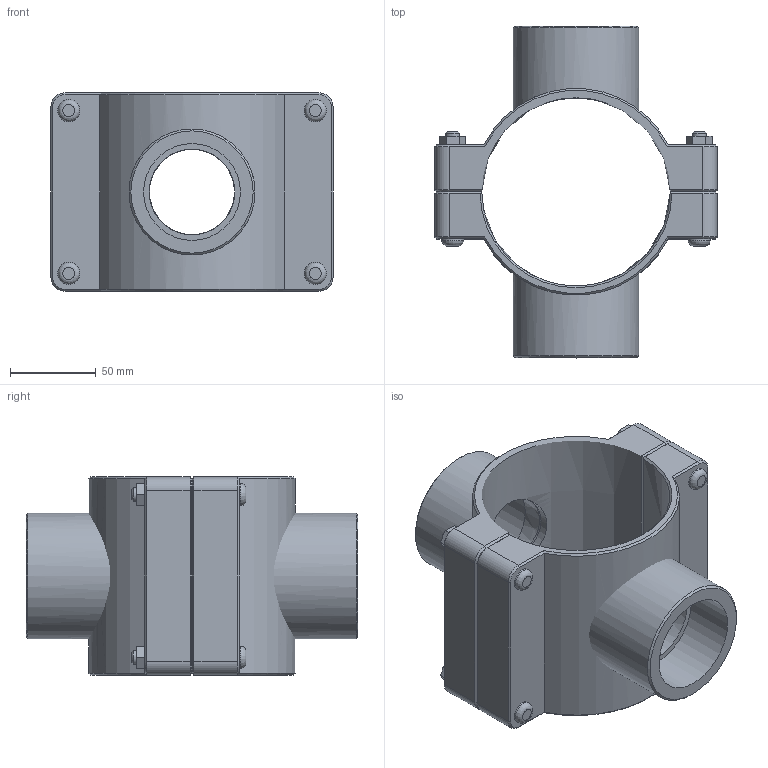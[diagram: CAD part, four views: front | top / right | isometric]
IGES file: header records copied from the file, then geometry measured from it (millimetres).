
Global section: file name: 161760110020_161860110020.ipt; native system: Autodesk Inventor 2015; preprocessor: unknown; author: KIM; date: 20170618.093745; units: millimetre
Bounding box: 165 x 194 x 116 mm (x, y, z)
Volume: 676913.2 mm3; surface area: 153887.5 mm2
Topology: 3 solids, 3 shells, 151 faces, 350 edges, 221 vertices
Faces by surface type: plane 84, cone 26, cylinder 24, revolution 17
Full cylindrical faces by diameter (mm): 8 x4, 13 x8, 73.653 x2
